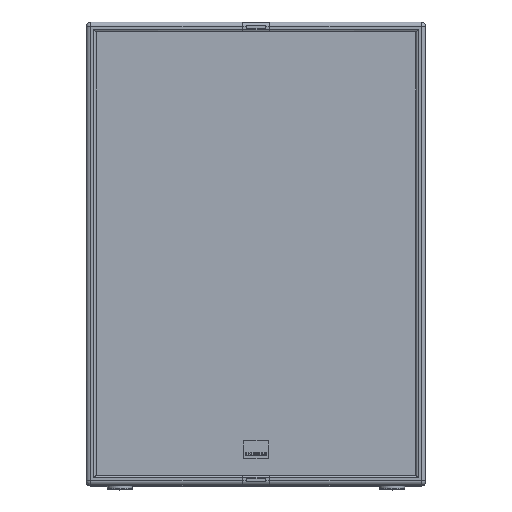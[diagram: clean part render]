
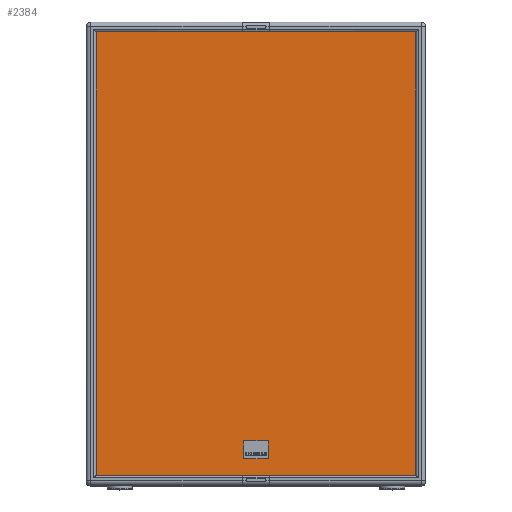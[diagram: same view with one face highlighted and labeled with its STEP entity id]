
A CAD part, top view. The second image highlights one B-rep face of the part: STEP entity #2384.
In plain terms, the highlighted planar face has unit normal (0, 0, 1) as drawn and (0, -1, 0) by its records, which use the part's own axes.
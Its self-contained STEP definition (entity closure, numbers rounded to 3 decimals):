
#2381 = EDGE_LOOP ( 'NONE', ( #2436, #2440, #2443, #2446 ) ) ;
#2384 = ADVANCED_FACE ( 'NONE', ( #11087 ), #11086, .T. ) ;
#2436 = ORIENTED_EDGE ( 'NONE', *, *, #2437, .F. ) ;
#2437 = EDGE_CURVE ( 'NONE', #2438, #2439, #11141, .T. ) ;
#2438 = VERTEX_POINT ( 'NONE', #11137 ) ;
#2439 = VERTEX_POINT ( 'NONE', #11136 ) ;
#2440 = ORIENTED_EDGE ( 'NONE', *, *, #2441, .F. ) ;
#2441 = EDGE_CURVE ( 'NONE', #2442, #2438, #11199, .T. ) ;
#2442 = VERTEX_POINT ( 'NONE', #11195 ) ;
#2443 = ORIENTED_EDGE ( 'NONE', *, *, #2444, .T. ) ;
#2444 = EDGE_CURVE ( 'NONE', #2442, #2445, #11194, .T. ) ;
#2445 = VERTEX_POINT ( 'NONE', #11190 ) ;
#2446 = ORIENTED_EDGE ( 'NONE', *, *, #2447, .F. ) ;
#2447 = EDGE_CURVE ( 'NONE', #2439, #2445, #11189, .T. ) ;
#11082 = DIRECTION ( 'NONE',  ( 0., 0., -1. ) ) ;
#11083 = DIRECTION ( 'NONE',  ( 0., -1., 0. ) ) ;
#11084 = CARTESIAN_POINT ( 'NONE',  ( 497., 4., 0. ) ) ;
#11085 = AXIS2_PLACEMENT_3D ( 'NONE', #11084, #11083, #11082 ) ;
#11086 = PLANE ( 'NONE',  #11085 ) ;
#11087 = FACE_OUTER_BOUND ( 'NONE', #2381, .T. ) ;
#11136 = CARTESIAN_POINT ( 'NONE',  ( 15., 4., 0. ) ) ;
#11137 = CARTESIAN_POINT ( 'NONE',  ( 497., 4., 0. ) ) ;
#11138 = DIRECTION ( 'NONE',  ( -1., 0., 0. ) ) ;
#11139 = VECTOR ( 'NONE', #11138, 1000. ) ;
#11140 = CARTESIAN_POINT ( 'NONE',  ( 256., 4., 0. ) ) ;
#11141 = LINE ( 'NONE', #11140, #11139 ) ;
#11186 = DIRECTION ( 'NONE',  ( 0., 0., 1. ) ) ;
#11187 = VECTOR ( 'NONE', #11186, 1000. ) ;
#11188 = CARTESIAN_POINT ( 'NONE',  ( 15., 4., 0. ) ) ;
#11189 = LINE ( 'NONE', #11188, #11187 ) ;
#11190 = CARTESIAN_POINT ( 'NONE',  ( 15., 4., 668. ) ) ;
#11191 = DIRECTION ( 'NONE',  ( -1., 0., 0. ) ) ;
#11192 = VECTOR ( 'NONE', #11191, 1000. ) ;
#11193 = CARTESIAN_POINT ( 'NONE',  ( 15., 4., 668. ) ) ;
#11194 = LINE ( 'NONE', #11193, #11192 ) ;
#11195 = CARTESIAN_POINT ( 'NONE',  ( 497., 4., 668. ) ) ;
#11196 = DIRECTION ( 'NONE',  ( 0., 0., -1. ) ) ;
#11197 = VECTOR ( 'NONE', #11196, 1000. ) ;
#11198 = CARTESIAN_POINT ( 'NONE',  ( 497., 4., 0. ) ) ;
#11199 = LINE ( 'NONE', #11198, #11197 ) ;
